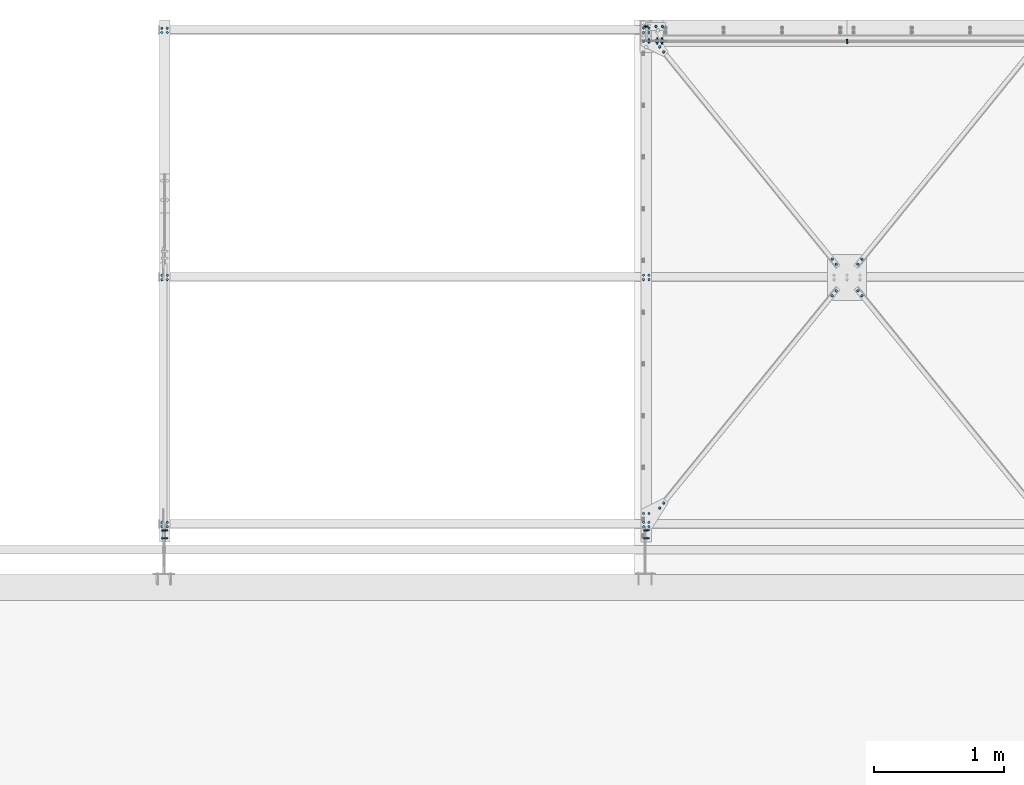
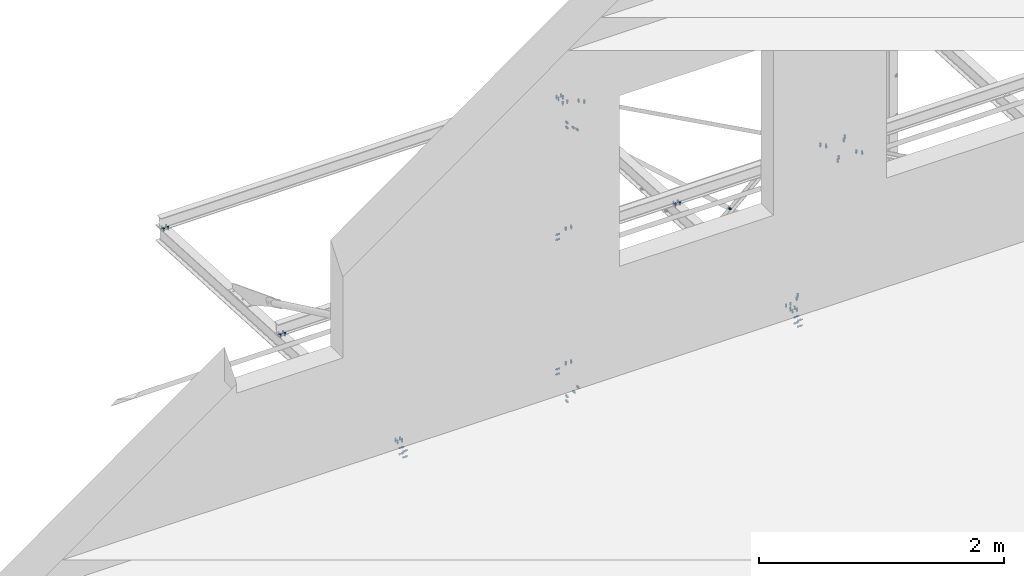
# One storey, part 306 of 362: 31 mechanical fasteners.
"""IFC2X3 building model written with IfcOpenShell, lengths in millimetres."""

from ifc_helpers import new_model, si_unit, frame, origin_with_axes, origin_2d_with_axis, place, context, subcontext, project, spatial, polyline, circle, outline, extrude, source, transform, mapped, material, type_object, element, save


model = new_model("IFC2X3")

# Units and contexts
model_context = context("Model", 3, precision=1e-05, world=origin_with_axes())
body_context = subcontext(model_context, "Body", "Model", "MODEL_VIEW")
ifc_project = project(units=[si_unit("LENGTHUNIT", "METRE", prefix="MILLI"), si_unit("AREAUNIT", "SQUARE_METRE"), si_unit("VOLUMEUNIT", "CUBIC_METRE"), si_unit("MASSUNIT", "GRAM", prefix="KILO"), si_unit("TIMEUNIT", "SECOND"), si_unit("PLANEANGLEUNIT", "RADIAN"), si_unit("SOLIDANGLEUNIT", "STERADIAN"), si_unit("THERMODYNAMICTEMPERATUREUNIT", "DEGREE_CELSIUS"), si_unit("LUMINOUSINTENSITYUNIT", "LUMEN")], contexts=[model_context])

# Site, building, storey
site_placement = place(None, origin_with_axes())
site = spatial("IfcSite", under=ifc_project, at=site_placement, Name="Undefined", CompositionType="ELEMENT")
building_placement = place(site_placement, origin_with_axes())
building = spatial("IfcBuilding", under=site, at=building_placement, Name="Undefined", CompositionType="ELEMENT")
storey_placement = place(building_placement, origin_with_axes())
storey = spatial("IfcBuildingStorey", under=building, at=storey_placement, Name="Undefined", CompositionType="ELEMENT", Elevation=0.0)

# Mechanical fasteners
ifc_material_1 = material(Name="8.8-SB-GALVA")
mechanical_fastener_type = type_object("IfcMechanicalFastenerType", Name="Bolt assembly")
shared_shape_1 = source(origin_with_axes(), body_context, "Body", "SweptSolid", [
    extrude(circle(Radius=7.0, at=origin_2d_with_axis()), frame((0.0, 2.40006625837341, 0.0), z_axis=(0.0, 1.0, 0.0), x_axis=(1.0, 0.0, 0.0)), (0.0, 0.0, 1.0), 4.1),
    extrude(circle(Radius=7.0, at=origin_2d_with_axis()), frame((0.0, -2.4000000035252, 0.0), z_axis=(0.0, 1.0, 0.0), x_axis=(1.0, 0.0, 0.0)), (0.0, 0.0, 1.0), 5.0),
    extrude(outline(polyline([(10.39230484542, 0.0), (5.19615242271, 9.00000000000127), (-5.19615242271, 9.00000000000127), (-10.39230484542, 0.0), (-5.19615242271, -9.00000000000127), (5.19615242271, -9.00000000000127), (10.39230484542, 0.0)])), frame((0.0, -10.4200000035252, 0.0), z_axis=(0.0, 1.0, 0.0), x_axis=(1.0, 0.0, 0.0)), (0.0, 0.0, 1.0), 7.92),
    extrude(circle(Radius=6.0, at=origin_2d_with_axis()), frame((0.0, -2.5, 0.0), z_axis=(0.0, 1.0, 0.0), x_axis=(1.0, 0.0, 0.0)), (0.0, 0.0, 1.0), 30.0),
    extrude(outline(polyline([(11.5008173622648, 0.0), (5.7504086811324, 9.96000000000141), (-5.7504086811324, 9.96000000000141), (-11.5008173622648, 0.0), (-5.7504086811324, -9.96000000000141), (5.7504086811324, -9.96000000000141), (11.5008173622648, 0.0)])), frame((0.0, 6.50006625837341, 0.0), z_axis=(0.0, 1.0, 0.0), x_axis=(1.0, 0.0, 0.0)), (0.0, 0.0, 1.0), 7.92),
])
mechanical_fastener_1_placement = place(storey_placement, frame((28987.1427146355, 29157.5, 2549.67857384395), z_axis=(0.666970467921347, 0.0, 0.745084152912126), x_axis=(0.745084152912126, 0.0, -0.666970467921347)))
element("IfcMechanicalFastener", 1, at=mechanical_fastener_1_placement, inside=storey, type_object=mechanical_fastener_type, material=ifc_material_1, Name="Bolt assembly", NominalDiameter=12.0, NominalLength=30.0, context=body_context, shape_type="MappedRepresentation", body=[
    mapped(shared_shape_1, transform((0.0, 0.0, 0.0))),
    mapped(shared_shape_1, transform((49.9999999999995, 0.0, -3.63797880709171e-12))),
])
shared_shape_2 = source(origin_with_axes(), body_context, "Body", "SweptSolid", [
    extrude(circle(Radius=7.0, at=origin_2d_with_axis()), frame((0.0, -3.90006625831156, 0.0), z_axis=(0.0, 1.0, 0.0), x_axis=(1.0, 0.0, 0.0)), (0.0, 0.0, 1.0), 4.0),
    extrude(circle(Radius=7.0, at=origin_2d_with_axis()), frame((0.0, 4.89993376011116, 0.0), z_axis=(0.0, 1.0, 0.0), x_axis=(1.0, 0.0, 0.0)), (0.0, 0.0, 1.0), 4.1),
    extrude(outline(polyline([(10.39230484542, 0.0), (5.19615242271, 9.00000000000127), (-5.19615242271, 9.00000000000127), (-10.39230484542, 0.0), (-5.19615242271, -9.00000000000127), (5.19615242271, -9.00000000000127), (10.39230484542, 0.0)])), frame((0.0, -11.9200662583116, 0.0), z_axis=(0.0, 1.0, 0.0), x_axis=(1.0, 0.0, 0.0)), (0.0, 0.0, 1.0), 7.92),
    extrude(circle(Radius=6.0, at=origin_2d_with_axis()), frame((0.0, -4.00006625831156, 0.0), z_axis=(0.0, 1.0, 0.0), x_axis=(1.0, 0.0, 0.0)), (0.0, 0.0, 1.0), 30.0),
    extrude(outline(polyline([(11.5008173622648, 0.0), (5.7504086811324, 9.96000000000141), (-5.7504086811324, 9.96000000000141), (-11.5008173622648, 0.0), (-5.7504086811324, -9.96000000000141), (5.7504086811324, -9.96000000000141), (11.5008173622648, 0.0)])), frame((0.0, 8.9999337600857, 0.0), z_axis=(0.0, 1.0, 0.0), x_axis=(1.0, 0.0, 0.0)), (0.0, 0.0, 1.0), 7.92),
])
mechanical_fastener_2_placement = place(storey_placement, frame((30452.999913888, 29160.0, 1237.49999863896), z_axis=(-1.0, 0.0, 0.0), x_axis=(0.0, 0.0, -1.0)))
element("IfcMechanicalFastener", 2, at=mechanical_fastener_2_placement, inside=storey, type_object=mechanical_fastener_type, material=ifc_material_1, Name="Bolt assembly", NominalDiameter=12.0, NominalLength=30.0, context=body_context, shape_type="MappedRepresentation", body=[
    mapped(shared_shape_2, transform((0.0, 0.0, 0.0))),
])
shared_shape_3 = source(origin_with_axes(), body_context, "Body", "SweptSolid", [
    extrude(circle(Radius=7.0, at=origin_2d_with_axis()), frame((0.0, 2.39993376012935, 0.0), z_axis=(0.0, 1.0, 0.0), x_axis=(1.0, 0.0, 0.0)), (0.0, 0.0, 1.0), 4.1),
    extrude(circle(Radius=7.0, at=origin_2d_with_axis()), frame((0.0, -2.4000000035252, 0.0), z_axis=(0.0, 1.0, 0.0), x_axis=(1.0, 0.0, 0.0)), (0.0, 0.0, 1.0), 5.0),
    extrude(outline(polyline([(10.39230484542, 0.0), (5.19615242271, 9.00000000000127), (-5.19615242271, 9.00000000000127), (-10.39230484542, 0.0), (-5.19615242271, -9.00000000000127), (5.19615242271, -9.00000000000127), (10.39230484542, 0.0)])), frame((0.0, -10.4200000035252, 0.0), z_axis=(0.0, 1.0, 0.0), x_axis=(1.0, 0.0, 0.0)), (0.0, 0.0, 1.0), 7.92),
    extrude(circle(Radius=6.0, at=origin_2d_with_axis()), frame((0.0, -2.5, 0.0), z_axis=(0.0, 1.0, 0.0), x_axis=(1.0, 0.0, 0.0)), (0.0, 0.0, 1.0), 30.0),
    extrude(outline(polyline([(11.5008173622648, 0.0), (5.7504086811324, 9.96000000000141), (-5.7504086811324, 9.96000000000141), (-11.5008173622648, 0.0), (-5.7504086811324, -9.96000000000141), (5.7504086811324, -9.96000000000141), (11.5008173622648, 0.0)])), frame((0.0, 6.49993376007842, 0.0), z_axis=(0.0, 1.0, 0.0), x_axis=(1.0, 0.0, 0.0)), (0.0, 0.0, 1.0), 7.92),
])
mechanical_fastener_3_placement = place(storey_placement, frame((28987.1427142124, 29157.5, -74.6786701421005), z_axis=(0.666970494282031, 0.0, -0.745084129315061), x_axis=(0.745084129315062, 0.0, 0.66697049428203)))
element("IfcMechanicalFastener", 3, at=mechanical_fastener_3_placement, inside=storey, type_object=mechanical_fastener_type, material=ifc_material_1, Name="Bolt assembly", NominalDiameter=12.0, NominalLength=30.0, context=body_context, shape_type="MappedRepresentation", body=[
    mapped(shared_shape_3, transform((0.0, 0.0, 0.0))),
    mapped(shared_shape_3, transform((49.9999999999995, 0.0, -3.63797880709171e-12))),
])
shared_shape_4 = source(origin_with_axes(), body_context, "Body", "SweptSolid", [
    extrude(circle(Radius=7.0, at=origin_2d_with_axis()), frame((0.0, -7.29830585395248, 0.0), z_axis=(0.0, 1.0, 0.0), x_axis=(1.0, 0.0, 0.0)), (0.0, 0.0, 1.0), 7.4),
    extrude(circle(Radius=7.0, at=origin_2d_with_axis()), frame((0.0, -0.0982394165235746, 0.0), z_axis=(0.0, 1.0, 0.0), x_axis=(1.0, 0.0, 0.0)), (0.0, 0.0, 1.0), 5.1),
    extrude(outline(polyline([(10.39230484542, 0.0), (5.19615242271, 9.00000000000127), (-5.19615242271, 9.00000000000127), (-10.39230484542, 0.0), (-5.19615242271, -9.00000000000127), (5.19615242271, -9.00000000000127), (10.39230484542, 0.0)])), frame((0.0, -15.3183058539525, 0.0), z_axis=(0.0, 1.0, 0.0), x_axis=(1.0, 0.0, 0.0)), (0.0, 0.0, 1.0), 7.92),
    extrude(circle(Radius=6.0, at=origin_2d_with_axis()), frame((0.0, -7.39830585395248, 0.0), z_axis=(0.0, 1.0, 0.0), x_axis=(1.0, 0.0, 0.0)), (0.0, 0.0, 1.0), 30.0),
    extrude(outline(polyline([(11.5008173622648, 0.0), (5.7504086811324, 9.96000000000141), (-5.7504086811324, 9.96000000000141), (-11.5008173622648, 0.0), (-5.7504086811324, -9.96000000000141), (5.7504086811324, -9.96000000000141), (11.5008173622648, 0.0)])), frame((0.0, 5.0017606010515, 0.0), z_axis=(0.0, 1.0, 0.0), x_axis=(1.0, 0.0, 0.0)), (0.0, 0.0, 1.0), 7.92),
])
mechanical_fastener_4_placement = place(storey_placement, frame((28923.9998592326, 29160.00176058, 2624.99990587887), z_axis=(-0.999999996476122, -8.38360000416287e-05, 4.39099999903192e-06), x_axis=(-4.39100001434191e-06, 0.0, -0.99999999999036)))
element("IfcMechanicalFastener", 4, at=mechanical_fastener_4_placement, inside=storey, type_object=mechanical_fastener_type, material=ifc_material_1, Name="Bolt assembly", NominalDiameter=12.0, NominalLength=30.0, context=body_context, shape_type="MappedRepresentation", body=[
    mapped(shared_shape_4, transform((0.0, 0.0, 0.0))),
    mapped(shared_shape_4, transform((49.9999999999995, 0.0, -3.63797880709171e-12))),
])
shared_shape_5 = source(origin_with_axes(), body_context, "Body", "SweptSolid", [
    extrude(circle(Radius=7.0, at=origin_2d_with_axis()), frame((0.0, -7.30007158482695, 0.0), z_axis=(0.0, 1.0, 0.0), x_axis=(1.0, 0.0, 0.0)), (0.0, 0.0, 1.0), 7.4),
    extrude(circle(Radius=7.0, at=origin_2d_with_axis()), frame((0.0, -0.100011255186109, 0.0), z_axis=(0.0, 1.0, 0.0), x_axis=(1.0, 0.0, 0.0)), (0.0, 0.0, 1.0), 5.1),
    extrude(outline(polyline([(10.39230484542, 0.0), (5.19615242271, 9.00000000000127), (-5.19615242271, 9.00000000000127), (-10.39230484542, 0.0), (-5.19615242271, -9.00000000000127), (5.19615242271, -9.00000000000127), (10.39230484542, 0.0)])), frame((0.0, -15.3200715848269, 0.0), z_axis=(0.0, 1.0, 0.0), x_axis=(1.0, 0.0, 0.0)), (0.0, 0.0, 1.0), 7.92),
    extrude(circle(Radius=6.0, at=origin_2d_with_axis()), frame((0.0, -7.40002311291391, 0.0), z_axis=(0.0, 1.0, 0.0), x_axis=(1.0, 0.0, 0.0)), (0.0, 0.0, 1.0), 30.0),
    extrude(outline(polyline([(11.5008173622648, 0.0), (5.7504086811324, 9.96000000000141), (-5.7504086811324, 9.96000000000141), (-11.5008173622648, 0.0), (-5.7504086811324, -9.96000000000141), (5.7504086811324, -9.96000000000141), (11.5008173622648, 0.0)])), frame((0.0, 5.0, 0.0), z_axis=(0.0, 1.0, 0.0), x_axis=(1.0, 0.0, 0.0)), (0.0, 0.0, 1.0), 7.92),
])
mechanical_fastener_5_placement = place(storey_placement, frame((28923.9999698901, 29159.9999948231, -149.999999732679), z_axis=(1.0, 0.0, 0.0), x_axis=(0.0, 0.0, 1.0)))
element("IfcMechanicalFastener", 5, at=mechanical_fastener_5_placement, inside=storey, type_object=mechanical_fastener_type, material=ifc_material_1, Name="Bolt assembly", NominalDiameter=12.0, NominalLength=30.0, context=body_context, shape_type="MappedRepresentation", body=[
    mapped(shared_shape_5, transform((0.0, 0.0, 0.0))),
    mapped(shared_shape_5, transform((49.9999999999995, 0.0, -3.63797880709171e-12))),
])
shared_shape_6 = source(origin_with_axes(), body_context, "Body", "SweptSolid", [
    extrude(circle(Radius=7.0, at=origin_2d_with_axis()), frame((0.0, 0.1, 0.0), z_axis=(0.0, 1.0, 0.0), x_axis=(1.0, 0.0, 0.0)), (0.0, 0.0, 1.0), 4.0),
    extrude(circle(Radius=7.0, at=origin_2d_with_axis()), frame((0.0, 3.9, 0.0), z_axis=(0.0, 1.0, 0.0), x_axis=(1.0, 0.0, 0.0)), (0.0, 0.0, 1.0), 5.1),
    extrude(outline(polyline([(10.39230484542, 0.0), (5.19615242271, 9.00000000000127), (-5.19615242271, 9.00000000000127), (-10.39230484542, 0.0), (-5.19615242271, -9.00000000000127), (5.19615242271, -9.00000000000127), (10.39230484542, 0.0)])), frame((0.0, -7.91999999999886, 0.0), z_axis=(0.0, 1.0, 0.0), x_axis=(1.0, 0.0, 0.0)), (0.0, 0.0, 1.0), 7.92),
    extrude(circle(Radius=6.0, at=origin_2d_with_axis()), frame((0.0, 0.0, 0.0), z_axis=(0.0, 1.0, 0.0), x_axis=(1.0, 0.0, 0.0)), (0.0, 0.0, 1.0), 30.0),
    extrude(outline(polyline([(11.5008173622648, 0.0), (5.7504086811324, 9.96000000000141), (-5.7504086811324, 9.96000000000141), (-11.5008173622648, 0.0), (-5.7504086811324, -9.96000000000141), (5.7504086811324, -9.96000000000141), (11.5008173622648, 0.0)])), frame((0.0, 8.99999939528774, 0.0), z_axis=(0.0, 1.0, 0.0), x_axis=(1.0, 0.0, 0.0)), (0.0, 0.0, 1.0), 7.92),
])
for number, where, z_axis, x_axis, name in (
    (6, (29027.9942734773, 29270.0000223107, 150.0), (0.0, -1.0, 0.0), (-1.0, 0.0, 0.0), "Bolt assembly"),
    (7, (29027.9942734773, 29270.0000223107, 1490.0), (0.0, -1.0, 0.0), (-1.0, 0.0, 0.0), "Bolt assembly"),
):
    element("IfcMechanicalFastener", number, at=place(storey_placement, frame(where, z_axis=z_axis, x_axis=x_axis)), inside=storey, type_object=mechanical_fastener_type, material=ifc_material_1, Name=name, NominalDiameter=12.0, NominalLength=30.0, context=body_context, shape_type="MappedRepresentation", body=[
        mapped(shared_shape_6, transform((0.0, 0.0, 0.0))),
        mapped(shared_shape_6, transform((49.9999999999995, 0.0, -3.63797880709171e-12))),
    ])
shared_shape_7 = source(origin_with_axes(), body_context, "Body", "SweptSolid", [
    extrude(circle(Radius=7.0, at=origin_2d_with_axis()), frame((0.0, -2.60569496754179, 0.0), z_axis=(0.0, 1.0, 0.0), x_axis=(1.0, 0.0, 0.0)), (0.0, 0.0, 1.0), 5.1),
    extrude(circle(Radius=7.0, at=origin_2d_with_axis()), frame((0.0, -7.9, 0.0), z_axis=(0.0, 1.0, 0.0), x_axis=(1.0, 0.0, 0.0)), (0.0, 0.0, 1.0), 5.0),
    extrude(outline(polyline([(10.39230484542, 0.0), (5.19615242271, 9.00000000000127), (-5.19615242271, 9.00000000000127), (-10.39230484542, 0.0), (-5.19615242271, -9.00000000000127), (5.19615242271, -9.00000000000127), (10.39230484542, 0.0)])), frame((0.0, -15.92, 0.0), z_axis=(0.0, 1.0, 0.0), x_axis=(1.0, 0.0, 0.0)), (0.0, 0.0, 1.0), 7.92),
    extrude(circle(Radius=6.0, at=origin_2d_with_axis()), frame((0.0, -8.0, 0.0), z_axis=(0.0, 1.0, 0.0), x_axis=(1.0, 0.0, 0.0)), (0.0, 0.0, 1.0), 30.0),
    extrude(outline(polyline([(11.5008173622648, 0.0), (5.7504086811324, 9.96000000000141), (-5.7504086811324, 9.96000000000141), (-11.5008173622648, 0.0), (-5.7504086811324, -9.96000000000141), (5.7504086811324, -9.96000000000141), (11.5008173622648, 0.0)])), frame((0.0, 2.49430503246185, 0.0), z_axis=(0.0, 1.0, 0.0), x_axis=(1.0, 0.0, 0.0)), (0.0, 0.0, 1.0), 7.92),
])
for number, where, z_axis, x_axis, name in (
    (8, (28902.994243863, 29270.0000000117, 61.0000006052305), (0.0, -1.0, 0.0), (0.0, 0.0, 1.0), "Bolt assembly"),
    (9, (28902.994243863, 29270.0000000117, 1401.00000060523), (0.0, -1.0, 0.0), (0.0, 0.0, 1.0), "Bolt assembly"),
):
    element("IfcMechanicalFastener", number, at=place(storey_placement, frame(where, z_axis=z_axis, x_axis=x_axis)), inside=storey, type_object=mechanical_fastener_type, material=ifc_material_1, Name=name, NominalDiameter=12.0, NominalLength=30.0, context=body_context, shape_type="MappedRepresentation", body=[
        mapped(shared_shape_7, transform((0.0, 0.0, 0.0))),
        mapped(shared_shape_7, transform((49.9999999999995, 0.0, -3.63797880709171e-12))),
    ])
ifc_material_2 = material(Name="6.8")
shared_shape_8 = source(origin_with_axes(), body_context, "Body", "SweptSolid", [
    extrude(circle(Radius=6.0, at=origin_2d_with_axis()), frame((0.0, -0.100011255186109, 0.0), z_axis=(0.0, 1.0, 0.0), x_axis=(1.0, 0.0, 0.0)), (0.0, 0.0, 1.0), 7.5),
    extrude(circle(Radius=6.0, at=origin_2d_with_axis()), frame((0.0, -2.4000000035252, 0.0), z_axis=(0.0, 1.0, 0.0), x_axis=(1.0, 0.0, 0.0)), (0.0, 0.0, 1.0), 5.0),
    extrude(outline(polyline([(9.81495457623, 0.0), (4.907477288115, 8.5000000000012), (-4.907477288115, 8.5000000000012), (-9.81495457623, 0.0), (-4.907477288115, -8.5000000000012), (4.907477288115, -8.5000000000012), (9.81495457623, 0.0)])), frame((0.0, -10.0000010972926, 0.0), z_axis=(0.0, 1.0, 0.0), x_axis=(1.0, 0.0, 0.0)), (0.0, 0.0, 1.0), 7.5),
    extrude(circle(Radius=5.0, at=origin_2d_with_axis()), frame((0.0, -2.5, 0.0), z_axis=(0.0, 1.0, 0.0), x_axis=(1.0, 0.0, 0.0)), (0.0, 0.0, 1.0), 30.0),
    extrude(outline(polyline([(9.23760430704, 0.0), (4.61880215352, 8.00000000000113), (-4.61880215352, 8.00000000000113), (-9.23760430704, 0.0), (-4.61880215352, -8.00000000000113), (4.61880215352, -8.00000000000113), (9.23760430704, 0.0)])), frame((0.0, 7.40000130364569, 0.0), z_axis=(0.0, 1.0, 0.0), x_axis=(1.0, 0.0, 0.0)), (0.0, 0.0, 1.0), 8.4),
])
for number, where, z_axis, x_axis, name in (
    (10, (28902.9999597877, 25511.1982734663, 3033.3181840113), (1.0, 0.0, 0.0), (0.0, -0.998630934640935, 0.0523092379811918), "Bolt assembly"),
    (11, (28902.9999505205, 29154.0292943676, 2842.50323106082), (-1.0, 0.0, 0.0), (-6.99999093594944e-09, 0.998630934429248, -0.0523092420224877), "Bolt assembly"),
):
    element("IfcMechanicalFastener", number, at=place(storey_placement, frame(where, z_axis=z_axis, x_axis=x_axis)), inside=storey, type_object=mechanical_fastener_type, material=ifc_material_2, Name=name, NominalDiameter=10.0, NominalLength=30.0, context=body_context, shape_type="MappedRepresentation", body=[
        mapped(shared_shape_8, transform((0.0, 0.0, -21.0))),
        mapped(shared_shape_8, transform((0.0, 0.0, 21.0))),
    ])
shared_shape_9 = source(origin_with_axes(), body_context, "Body", "SweptSolid", [
    extrude(circle(Radius=7.0, at=origin_2d_with_axis()), frame((0.0, -6.9, 0.0), z_axis=(0.0, 1.0, 0.0), x_axis=(1.0, 0.0, 0.0)), (0.0, 0.0, 1.0), 4.0),
    extrude(circle(Radius=7.0, at=origin_2d_with_axis()), frame((0.0, -2.60000006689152, 0.0), z_axis=(0.0, 1.0, 0.0), x_axis=(1.0, 0.0, 0.0)), (0.0, 0.0, 1.0), 5.1),
    extrude(outline(polyline([(10.39230484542, 0.0), (5.19615242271, 9.00000000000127), (-5.19615242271, 9.00000000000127), (-10.39230484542, 0.0), (-5.19615242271, -9.00000000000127), (5.19615242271, -9.00000000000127), (10.39230484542, 0.0)])), frame((0.0, -14.92, 0.0), z_axis=(0.0, 1.0, 0.0), x_axis=(1.0, 0.0, 0.0)), (0.0, 0.0, 1.0), 7.92),
    extrude(circle(Radius=6.0, at=origin_2d_with_axis()), frame((0.0, -7.0, 0.0), z_axis=(0.0, 1.0, 0.0), x_axis=(1.0, 0.0, 0.0)), (0.0, 0.0, 1.0), 30.0),
    extrude(outline(polyline([(11.5008173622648, 0.0), (5.7504086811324, 9.96000000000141), (-5.7504086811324, 9.96000000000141), (-11.5008173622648, 0.0), (-5.7504086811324, -9.96000000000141), (5.7504086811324, -9.96000000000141), (11.5008173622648, 0.0)])), frame((0.0, 2.49999993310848, 0.0), z_axis=(0.0, 1.0, 0.0), x_axis=(1.0, 0.0, 0.0)), (0.0, 0.0, 1.0), 7.92),
])
for number, where, z_axis, x_axis, name in (
    (12, (29006.789686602, 25552.9467329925, 3031.13135888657), (-0.776487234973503, 0.629270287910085, -0.0329617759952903), (0.630132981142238, 0.775424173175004, -0.0406174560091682), "Bolt assembly"),
    (13, (29006.7896570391, 29112.2793146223, 2844.69013130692), (0.776487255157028, 0.629270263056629, -0.0329617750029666), (0.630132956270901, -0.775424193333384, 0.0406174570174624), "Bolt assembly"),
):
    element("IfcMechanicalFastener", number, at=place(storey_placement, frame(where, z_axis=z_axis, x_axis=x_axis)), inside=storey, type_object=mechanical_fastener_type, material=ifc_material_1, Name=name, NominalDiameter=12.0, NominalLength=30.0, context=body_context, shape_type="MappedRepresentation", body=[
        mapped(shared_shape_9, transform((0.0, 0.0, 0.0))),
        mapped(shared_shape_9, transform((49.9999999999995, 0.0, -3.63797880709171e-12))),
    ])
shared_shape_10 = source(origin_with_axes(), body_context, "Body", "SweptSolid", [
    extrude(circle(Radius=7.0, at=origin_2d_with_axis()), frame((0.0, -6.9, 0.0), z_axis=(0.0, 1.0, 0.0), x_axis=(1.0, 0.0, 0.0)), (0.0, 0.0, 1.0), 4.0),
    extrude(circle(Radius=7.0, at=origin_2d_with_axis()), frame((0.0, -0.100011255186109, 0.0), z_axis=(0.0, 1.0, 0.0), x_axis=(1.0, 0.0, 0.0)), (0.0, 0.0, 1.0), 5.1),
    extrude(outline(polyline([(10.39230484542, 0.0), (5.19615242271, 9.00000000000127), (-5.19615242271, 9.00000000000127), (-10.39230484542, 0.0), (-5.19615242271, -9.00000000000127), (5.19615242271, -9.00000000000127), (10.39230484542, 0.0)])), frame((0.0, -14.92, 0.0), z_axis=(0.0, 1.0, 0.0), x_axis=(1.0, 0.0, 0.0)), (0.0, 0.0, 1.0), 7.92),
    extrude(circle(Radius=6.0, at=origin_2d_with_axis()), frame((0.0, -7.0, 0.0), z_axis=(0.0, 1.0, 0.0), x_axis=(1.0, 0.0, 0.0)), (0.0, 0.0, 1.0), 30.0),
    extrude(outline(polyline([(11.5008173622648, 0.0), (5.7504086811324, 9.96000000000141), (-5.7504086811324, 9.96000000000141), (-11.5008173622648, 0.0), (-5.7504086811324, -9.96000000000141), (5.7504086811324, -9.96000000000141), (11.5008173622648, 0.0)])), frame((0.0, 5.0, 0.0), z_axis=(0.0, 1.0, 0.0), x_axis=(1.0, 0.0, 0.0)), (0.0, 0.0, 1.0), 7.92),
])
for number, where, z_axis, x_axis, name in (
    (14, (30536.4557555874, 27229.9146393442, 2943.29018419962), (0.776487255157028, 0.629270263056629, -0.0329617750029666), (0.630132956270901, -0.775424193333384, 0.0406174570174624), "Bolt assembly"),
    (15, (30536.4557762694, 27435.3114565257, 2932.53130346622), (-0.776487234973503, 0.629270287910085, -0.0329617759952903), (0.630132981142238, 0.775424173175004, -0.0406174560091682), "Bolt assembly"),
    (16, (30369.5441302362, 27435.3114557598, 2932.53130350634), (-0.776487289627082, -0.629270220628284, 0.032961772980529), (-0.63013291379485, 0.77542422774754, -0.0406174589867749), "Bolt assembly"),
    (17, (30369.544155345, 27229.9146377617, 2943.29018428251), (0.776487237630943, -0.629270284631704, 0.0329617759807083), (-0.630132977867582, -0.775424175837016, 0.0406174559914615), "Bolt assembly"),
):
    element("IfcMechanicalFastener", number, at=place(storey_placement, frame(where, z_axis=z_axis, x_axis=x_axis)), inside=storey, type_object=mechanical_fastener_type, material=ifc_material_1, Name=name, NominalDiameter=12.0, NominalLength=30.0, context=body_context, shape_type="MappedRepresentation", body=[
        mapped(shared_shape_10, transform((0.0, 0.0, 0.0))),
        mapped(shared_shape_10, transform((49.9999999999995, 0.0, -3.63797880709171e-12))),
    ])
shared_shape_11 = source(origin_with_axes(), body_context, "Body", "SweptSolid", [
    extrude(circle(Radius=6.0, at=origin_2d_with_axis()), frame((0.0, -0.100011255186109, 0.0), z_axis=(0.0, 1.0, 0.0), x_axis=(1.0, 0.0, 0.0)), (0.0, 0.0, 1.0), 7.5),
    extrude(circle(Radius=6.0, at=origin_2d_with_axis()), frame((0.0, -6.19999893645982, 0.0), z_axis=(0.0, 1.0, 0.0), x_axis=(1.0, 0.0, 0.0)), (0.0, 0.0, 1.0), 6.3),
    extrude(outline(polyline([(9.81495457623, 0.0), (4.907477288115, 8.5000000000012), (-4.907477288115, 8.5000000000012), (-9.81495457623, 0.0), (-4.907477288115, -8.5000000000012), (4.907477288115, -8.5000000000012), (9.81495457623, 0.0)])), frame((0.0, -13.7999989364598, 0.0), z_axis=(0.0, 1.0, 0.0), x_axis=(1.0, 0.0, 0.0)), (0.0, 0.0, 1.0), 7.5),
    extrude(circle(Radius=5.0, at=origin_2d_with_axis()), frame((0.0, -6.29999893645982, 0.0), z_axis=(0.0, 1.0, 0.0), x_axis=(1.0, 0.0, 0.0)), (0.0, 0.0, 1.0), 30.0),
    extrude(outline(polyline([(9.23760430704, 0.0), (4.61880215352, 8.00000000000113), (-4.61880215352, 8.00000000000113), (-9.23760430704, 0.0), (-4.61880215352, -8.00000000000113), (4.61880215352, -8.00000000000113), (9.23760430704, 0.0)])), frame((0.0, 7.40000130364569, 0.0), z_axis=(0.0, 1.0, 0.0), x_axis=(1.0, 0.0, 0.0)), (0.0, 0.0, 1.0), 8.4),
])
for number, where, z_axis, x_axis, name in (
    (18, (25163.9999692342, 25425.2259809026, 3037.82149495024), (-6.99999093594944e-09, 0.998630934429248, -0.0523092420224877), (1.0, 0.0, 0.0), "Bolt assembly"),
    (19, (25163.9999692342, 27332.6130088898, 2937.91074741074), (-6.99999093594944e-09, 0.998630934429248, -0.0523092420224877), (1.0, 0.0, 0.0), "Bolt assembly"),
    (20, (25163.9999692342, 29240.0000640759, 2837.99999845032), (-6.99999093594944e-09, 0.998630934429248, -0.0523092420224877), (1.0, 0.0, 0.0), "Bolt assembly"),
    (21, (28881.9999389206, 27332.6130361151, 2937.91074598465), (-6.99999093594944e-09, 0.998630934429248, -0.0523092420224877), (1.0, 0.0, 0.0), "Bolt assembly"),
):
    element("IfcMechanicalFastener", number, at=place(storey_placement, frame(where, z_axis=z_axis, x_axis=x_axis)), inside=storey, type_object=mechanical_fastener_type, material=ifc_material_2, Name=name, NominalDiameter=10.0, NominalLength=30.0, context=body_context, shape_type="MappedRepresentation", body=[
        mapped(shared_shape_11, transform((0.0, 3.18323145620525e-11, -16.9999999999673))),
        mapped(shared_shape_11, transform((42.0, 3.18323145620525e-11, -16.9999999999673))),
        mapped(shared_shape_11, transform((0.0, -3.18323145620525e-11, 16.9999999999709))),
        mapped(shared_shape_11, transform((42.0, -3.18323145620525e-11, 16.9999999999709))),
    ])
shared_shape_12 = source(origin_with_axes(), body_context, "Body", "SweptSolid", [
    extrude(circle(Radius=6.0, at=origin_2d_with_axis()), frame((0.0, -0.100011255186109, 0.0), z_axis=(0.0, 1.0, 0.0), x_axis=(1.0, 0.0, 0.0)), (0.0, 0.0, 1.0), 7.5),
    extrude(circle(Radius=6.0, at=origin_2d_with_axis()), frame((0.0, -6.19999893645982, 0.0), z_axis=(0.0, 1.0, 0.0), x_axis=(1.0, 0.0, 0.0)), (0.0, 0.0, 1.0), 6.3),
    extrude(circle(Radius=6.0, at=origin_2d_with_axis()), frame((0.0, -2.5, 0.0), z_axis=(0.0, 1.0, 0.0), x_axis=(1.0, 0.0, 0.0)), (0.0, 0.0, 1.0), 5.0),
    extrude(outline(polyline([(9.81495457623, 0.0), (4.907477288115, 8.5000000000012), (-4.907477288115, 8.5000000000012), (-9.81495457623, 0.0), (-4.907477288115, -8.5000000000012), (4.907477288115, -8.5000000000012), (9.81495457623, 0.0)])), frame((0.0, -13.7999989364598, 0.0), z_axis=(0.0, 1.0, 0.0), x_axis=(1.0, 0.0, 0.0)), (0.0, 0.0, 1.0), 7.5),
    extrude(circle(Radius=5.0, at=origin_2d_with_axis()), frame((0.0, -6.29999893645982, 0.0), z_axis=(0.0, 1.0, 0.0), x_axis=(1.0, 0.0, 0.0)), (0.0, 0.0, 1.0), 30.0),
    extrude(outline(polyline([(9.23760430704, 0.0), (4.61880215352, 8.00000000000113), (-4.61880215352, 8.00000000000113), (-9.23760430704, 0.0), (-4.61880215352, -8.00000000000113), (4.61880215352, -8.00000000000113), (9.23760430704, 0.0)])), frame((0.0, 7.40000130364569, 0.0), z_axis=(0.0, 1.0, 0.0), x_axis=(1.0, 0.0, 0.0)), (0.0, 0.0, 1.0), 8.4),
])
for number, where, z_axis, x_axis, name in (
    (22, (28881.9999389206, 29240.0000641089, 2837.99999844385), (-6.99999093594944e-09, 0.998630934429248, -0.0523092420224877), (1.0, 0.0, 0.0), "Bolt assembly"),
    (23, (28881.9999389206, 25425.2260303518, 3037.8214923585), (-6.99999093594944e-09, 0.998630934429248, -0.0523092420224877), (1.0, 0.0, 0.0), "Bolt assembly"),
):
    element("IfcMechanicalFastener", number, at=place(storey_placement, frame(where, z_axis=z_axis, x_axis=x_axis)), inside=storey, type_object=mechanical_fastener_type, material=ifc_material_2, Name=name, NominalDiameter=10.0, NominalLength=30.0, context=body_context, shape_type="MappedRepresentation", body=[
        mapped(shared_shape_12, transform((0.0, 3.18323145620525e-11, -16.9999999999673))),
        mapped(shared_shape_12, transform((42.0, 3.18323145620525e-11, -16.9999999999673))),
        mapped(shared_shape_12, transform((0.0, -3.18323145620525e-11, 16.9999999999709))),
        mapped(shared_shape_12, transform((42.0, -3.18323145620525e-11, 16.9999999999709))),
    ])
shared_shape_13 = source(origin_with_axes(), body_context, "Body", "SweptSolid", [
    extrude(circle(Radius=7.0, at=origin_2d_with_axis()), frame((0.0, -2.60005959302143, 0.0), z_axis=(0.0, 1.0, 0.0), x_axis=(1.0, 0.0, 0.0)), (0.0, 0.0, 1.0), 5.1),
    extrude(circle(Radius=7.0, at=origin_2d_with_axis()), frame((0.0, -14.899999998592, 0.0), z_axis=(0.0, 1.0, 0.0), x_axis=(1.0, 0.0, 0.0)), (0.0, 0.0, 1.0), 10.0),
    extrude(outline(polyline([(10.39230484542, 0.0), (5.19615242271, 9.00000000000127), (-5.19615242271, 9.00000000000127), (-10.39230484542, 0.0), (-5.19615242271, -9.00000000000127), (5.19615242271, -9.00000000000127), (10.39230484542, 0.0)])), frame((0.0, -22.919999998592, 0.0), z_axis=(0.0, 1.0, 0.0), x_axis=(1.0, 0.0, 0.0)), (0.0, 0.0, 1.0), 7.92),
    extrude(circle(Radius=6.0, at=origin_2d_with_axis()), frame((0.0, -14.999999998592, 0.0), z_axis=(0.0, 1.0, 0.0), x_axis=(1.0, 0.0, 0.0)), (0.0, 0.0, 1.0), 40.0),
    extrude(outline(polyline([(11.5008173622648, 0.0), (5.7504086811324, 9.96000000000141), (-5.7504086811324, 9.96000000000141), (-11.5008173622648, 0.0), (-5.7504086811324, -9.96000000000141), (5.7504086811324, -9.96000000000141), (11.5008173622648, 0.0)])), frame((0.0, 2.49994040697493, 0.0), z_axis=(0.0, 1.0, 0.0), x_axis=(1.0, 0.0, 0.0)), (0.0, 0.0, 1.0), 7.92),
])
for number, where, z_axis, x_axis, name in (
    (24, (28903.0000296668, 25320.0, 2993.26478427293), (0.0, 1.0, 0.0), (0.0, 0.0, 1.0), "Bolt assembly"),
    (25, (28903.0000296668, 25380.0, 2990.12192721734), (0.0, 1.0, 0.0), (0.0, 0.0, 1.0), "Bolt assembly"),
    (26, (28903.0000296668, 25320.0, 2933.18252773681), (0.0, -1.0, 0.0), (0.0, 0.0, -1.0), "Bolt assembly"),
    (27, (28903.0000296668, 25380.0, 2930.03967068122), (0.0, -1.0, 0.0), (0.0, 0.0, -1.0), "Bolt assembly"),
    (28, (25185.0000296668, 25320.0, 2993.26478427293), (0.0, 1.0, 0.0), (0.0, 0.0, 1.0), "Bolt assembly"),
    (29, (25185.0000296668, 25380.0, 2990.12192721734), (0.0, 1.0, 0.0), (0.0, 0.0, 1.0), "Bolt assembly"),
    (30, (25185.0000296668, 25320.0, 2933.18252773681), (0.0, -1.0, 0.0), (0.0, 0.0, -1.0), "Bolt assembly"),
    (31, (25185.0000296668, 25380.0, 2930.03967068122), (0.0, -1.0, 0.0), (0.0, 0.0, -1.0), "Bolt assembly"),
):
    element("IfcMechanicalFastener", number, at=place(storey_placement, frame(where, z_axis=z_axis, x_axis=x_axis)), inside=storey, type_object=mechanical_fastener_type, material=ifc_material_1, Name=name, NominalDiameter=12.0, NominalLength=40.0, context=body_context, shape_type="MappedRepresentation", body=[
        mapped(shared_shape_13, transform((0.0, 0.0, 0.0))),
    ])

save(model, "model.ifc")
